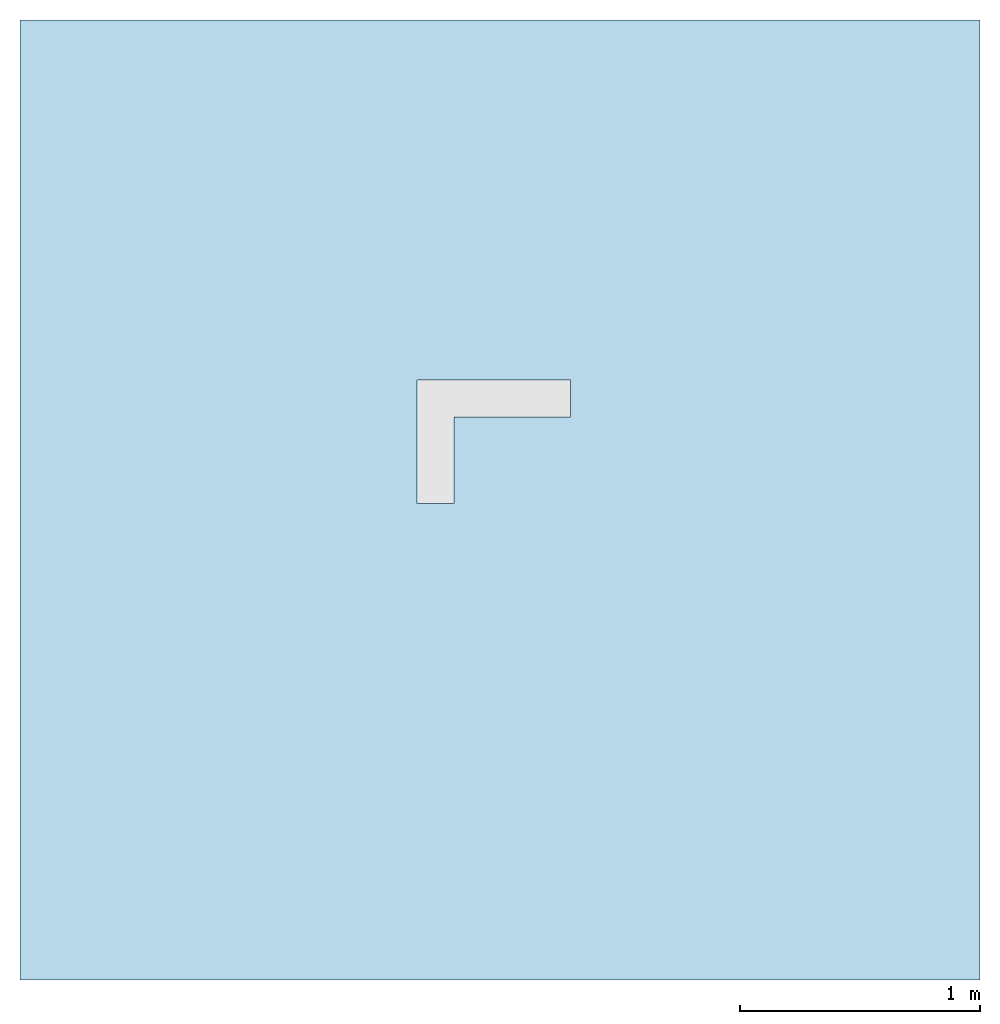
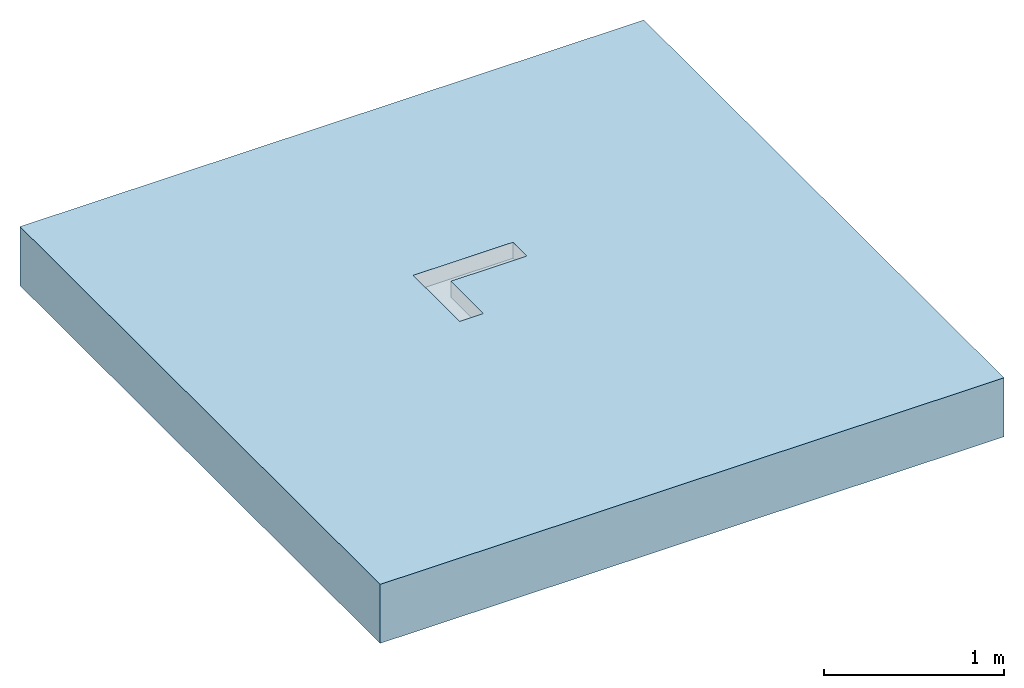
# One storey, incomplete: 1 slab, 1 opening.
"""IFC2X3 building model written with IfcOpenShell, lengths in millimetres."""

from ifc_helpers import new_model, entity, si_unit, converted_unit, direction, frame, frame_2d, origin, place, context, subcontext, project, spatial, polyline, rectangle, outline, extrude, material, layer, layer_set, layer_usage, element, save


model = new_model("IFC2X3")

# Units and contexts
model_context = context("Model", 3, precision=1e-06, world=origin(), true_north=direction((2.0, 6.12303176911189e-17, 1.0)))
context_of_model = context(None, 3, precision=1e-06, world=origin(), true_north=direction((2.0, 6.12303176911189e-17, 1.0)))
body_context = subcontext(model_context, "Body", "Model", "MODEL_VIEW")
ifc_project = project(units=[si_unit("LENGTHUNIT", "METRE", prefix="MILLI"), si_unit("AREAUNIT", "SQUARE_METRE", prefix="MILLI"), si_unit("VOLUMEUNIT", "CUBIC_METRE", prefix="MILLI"), converted_unit("PLANEANGLEUNIT", "DEGREE", entity("IfcRatioMeasure", 0.0174532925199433), si_unit("PLANEANGLEUNIT", "RADIAN"), dimensions=[0, 0, 0, 0, 0, 0, 0]), si_unit("TIMEUNIT", "SECOND")], contexts=[model_context, context_of_model])

# Site, building, storey
site_placement = place(None, origin())
site = spatial("IfcSite", under=ifc_project, at=site_placement, Name="Default", CompositionType="ELEMENT")
building_placement = place(site_placement, origin())
building = spatial("IfcBuilding", under=site, at=building_placement, CompositionType="ELEMENT")
storey_placement = place(building_placement, origin())
storey = spatial("IfcBuildingStorey", under=building, at=storey_placement, Name="Level 1", CompositionType="ELEMENT", Elevation=0.0)

# Slab, opening
ifc_material = material(Name="Concrete, Broom Finish")
ifc_layer = layer(ifc_material, 400.0)
ifc_layer_set = layer_set([ifc_layer], Name="Floor:Generic Floor - 400mm")
ifc_layer_usage = layer_usage(ifc_layer_set, "AXIS3", "POSITIVE", 0.0)
slab_placement = place(storey_placement, origin())
slab = element("IfcSlab", 1, at=slab_placement, inside=storey, material=ifc_layer_usage, Name="Floor:Generic Floor - 400mm", ObjectType="Floor:Generic Floor - 400mm", PredefinedType="FLOOR", context=body_context, shape_type="SweptSolid", body=[
    extrude(rectangle(XDim=4000.0, YDim=4000.0, at=frame_2d((0.0, 0.0), x_axis=(0.0, -1.0))), frame((-42.176138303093, 0.318612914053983, 0.0), z_axis=(0.0, 0.0, -1.0), x_axis=(-1.0, 0.0, 0.0)), (0.0, 0.0, 1.0), 400.0),
])
opening_placement = place(slab_placement, origin())
element("IfcOpeningElement", 2, at=opening_placement, cuts=slab, ObjectType="Recess", context=body_context, shape_type="SweptSolid", body=[
    extrude(outline(polyline([(-291.666666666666, -111.0), (-291.666666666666, -264.0), (222.333333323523, -264.0), (222.333333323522, 375.0), (69.3333333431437, 375.0), (69.3333333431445, -111.0), (-291.666666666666, -111.0)])), frame((-123.018981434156, 277.077343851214, -107.800000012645), z_axis=(0.0, 0.0, -1.0), x_axis=(0.0, 1.0, 0.0)), (0.0, 0.0, -1.0), 107.800000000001),
])

save(model, "model.ifc")
